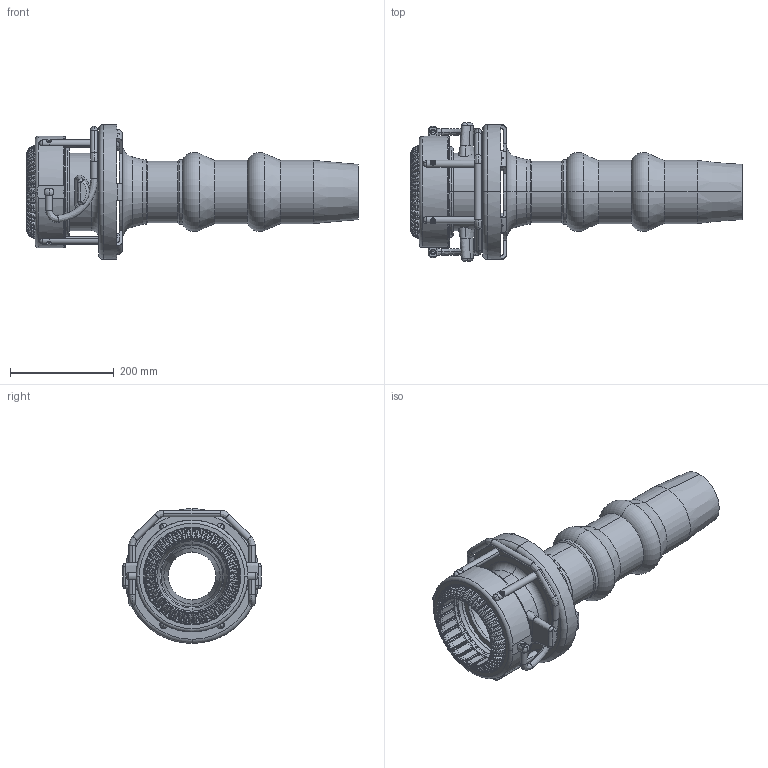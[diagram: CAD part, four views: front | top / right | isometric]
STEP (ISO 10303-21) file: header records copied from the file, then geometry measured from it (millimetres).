
FILE_DESCRIPTION (( 'STEP AP203' ), '1' );
FILE_NAME ('FJ-LX-M.step', '2014-05-13T19:31:42', ( 'user' ), ( '' ), 'SwSTEP 2.0', 'SolidWorks 2012', '' );
FILE_SCHEMA (( 'CONFIG_CONTROL_DESIGN' ));
Products named in the file (1): FJ-LX-M
Bounding box: 640.94 x 266.7 x 260.35 mm (x, y, z)
Surface area: 721820.4 mm2 (no closed solid volume)
Topology: 0 solids, 39 shells, 1445 faces, 5063 edges, 3439 vertices
Faces by surface type: bspline 465, cylinder 370, torus 334, plane 220, cone 38, sphere 18
Entity records: 106878 total; most frequent: CARTESIAN_POINT 68434, ORIENTED_EDGE 7954, DIRECTION 7130, EDGE_CURVE 5055, VERTEX_POINT 3439, AXIS2_PLACEMENT_3D 2961, CIRCLE 1980, B_SPLINE_CURVE_WITH_KNOTS 1861
